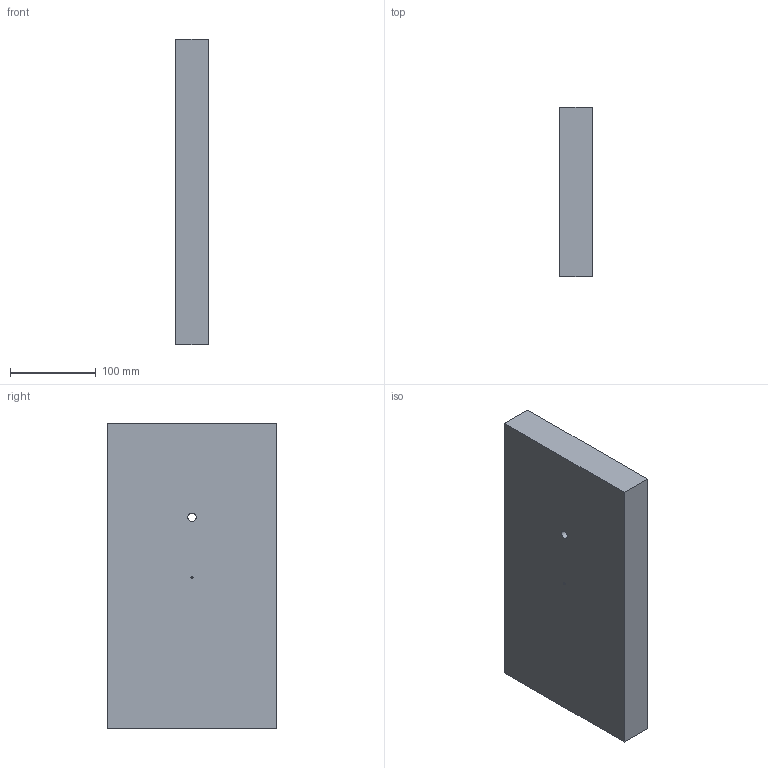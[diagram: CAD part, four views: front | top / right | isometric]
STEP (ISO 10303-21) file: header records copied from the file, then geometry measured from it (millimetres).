
FILE_DESCRIPTION(('FreeCAD Model'),'2;1');
FILE_NAME('/home/jwright/Documents/Mach_30/Shepard_v1.0_CAD/STEP_Files/Shepard_v1.0_Back_Plate_BP01.step','2012-10-29T22:16:20',('FreeCAD'),('FreeCAD') ,'Open CASCADE STEP processor 6.5','FreeCAD','Unknown');
FILE_SCHEMA(('AUTOMOTIVE_DESIGN_CC2 { 1 2 10303 214 -1 1 5 4 }'));
Length unit declared in the file: millimetre
Products named in the file (1): Cut
Bounding box: 38.1 x 196.85 x 355.6 mm (x, y, z)
Volume: 2664113 mm3; surface area: 183369.7 mm2
Topology: 1 solids, 1 shells, 8 faces, 19 edges, 13 vertices
Faces by surface type: plane 6, cylinder 2
Full cylindrical faces by diameter (mm): 2.381 x1, 9.52 x1
Entity records: 561 total; most frequent: DIRECTION 80, CARTESIAN_POINT 79, LINE 47, VECTOR 47, ORIENTED_EDGE 38, PCURVE 38, DEFINITIONAL_REPRESENTATION 38, EDGE_CURVE 19
